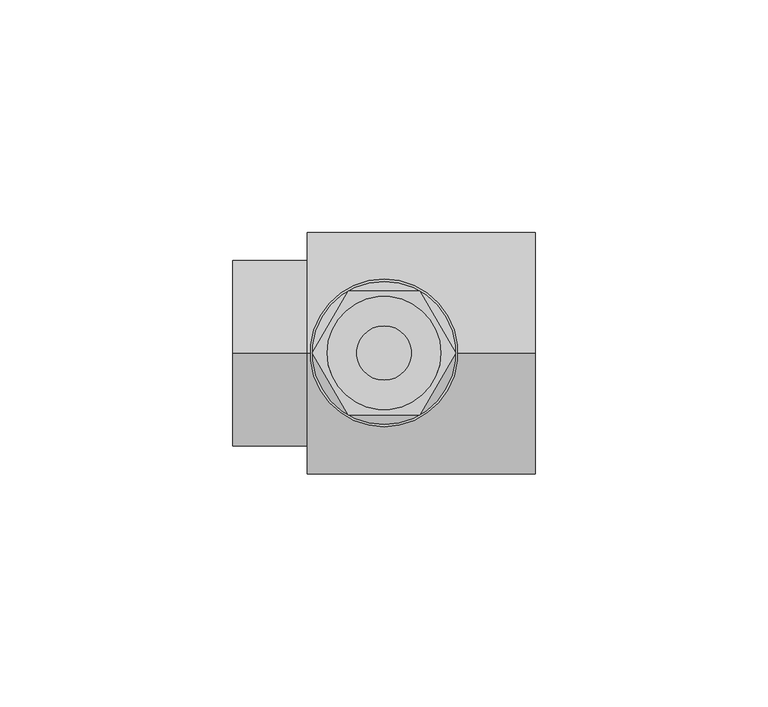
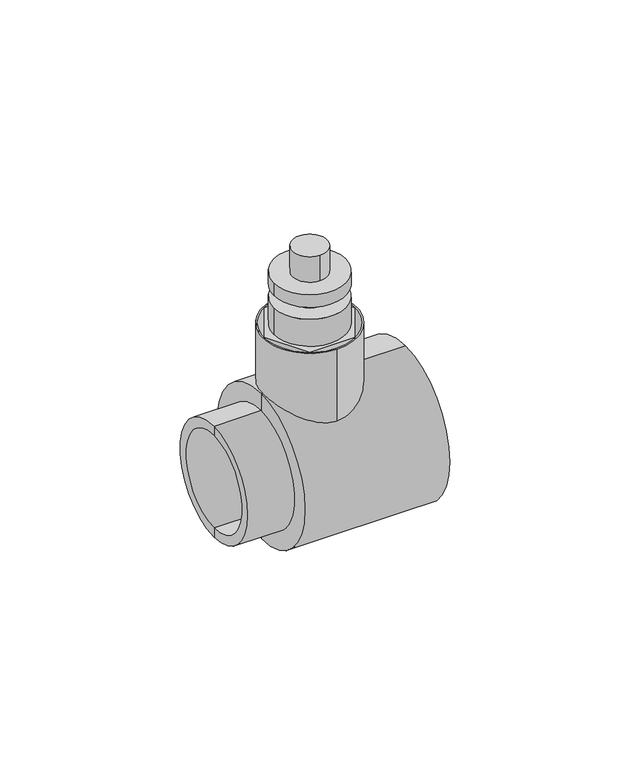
"""IFC4 building model written with IfcOpenShell, lengths in millimetres: valve geometry, Aquatherm - Draining Branch : DRAINING BRANCH."""

from ifc_helpers import new_model, si_unit, point, frame, origin, origin_2d, place, context, project, spatial, polyline, circle_curve, trimmed, segment, composite_curve, outline, extrude, source, transform, mapped, element, save
from ifc_brep_helpers import plane_surface, cylinder_surface, revolved_surface, advanced_brep


def valve_f6efbf89(model_context):
    return source(origin(), model_context, "Body", "SolidModel", [
        extrude(outline(composite_curve([segment(trimmed(circle_curve(origin_2d(), 5.842), [point((0.0, 5.842))], [point((0.0, -5.842))], False, "CARTESIAN"), True, "CONTINUOUS"), segment(trimmed(circle_curve(origin_2d(), 5.842), [point((0.0, -5.842))], [point((0.0, 5.842))], False, "CARTESIAN"), True, "CONTINUOUS")], self_intersect=False)), frame((0.0, 0.0, 64.262), z_axis=(0.0, 0.0, 1.0), x_axis=(1.0, 0.0, 0.0)), (0.0, 0.0, 1.0), 9.144),
        extrude(outline(composite_curve([segment(trimmed(circle_curve(origin_2d(), 12.192), [point((12.192, 0.0))], [point((-12.192, 0.0))], False, "CARTESIAN"), True, "CONTINUOUS"), segment(trimmed(circle_curve(origin_2d(), 12.192), [point((-12.192, 0.0))], [point((12.192, 0.0))], False, "CARTESIAN"), True, "CONTINUOUS")], self_intersect=False)), frame((0.0, 0.0, 59.69), z_axis=(0.0, 0.0, 1.0), x_axis=(1.0, 0.0, 0.0)), (0.0, 0.0, 1.0), 4.572),
        extrude(outline(composite_curve([segment(trimmed(circle_curve(origin_2d(), 6.35), [point((6.35, 0.0))], [point((-6.35, 0.0))], False, "CARTESIAN"), True, "CONTINUOUS"), segment(trimmed(circle_curve(origin_2d(), 6.35), [point((-6.35, 0.0))], [point((6.35, 0.0))], False, "CARTESIAN"), True, "CONTINUOUS")], self_intersect=False)), frame((0.0, 0.0, 55.372), z_axis=(0.0, 0.0, 1.0), x_axis=(1.0, 0.0, 0.0)), (0.0, 0.0, 1.0), 4.318),
        extrude(outline(composite_curve([segment(trimmed(circle_curve(origin_2d(), 12.192), [point((12.192, 0.0))], [point((-12.192, 0.0))], False, "CARTESIAN"), True, "CONTINUOUS"), segment(trimmed(circle_curve(origin_2d(), 12.192), [point((-12.192, 0.0))], [point((12.192, 0.0))], False, "CARTESIAN"), True, "CONTINUOUS")], self_intersect=False)), frame((0.0, 0.0, 45.72), z_axis=(0.0, 0.0, 1.0), x_axis=(1.0, 0.0, 0.0)), (0.0, 0.0, 1.0), 9.652),
        extrude(outline(polyline([(15.367, 0.0), (7.6835, -13.3082124), (-7.6835, -13.3082124), (-15.367, 0.0), (-7.6835, 13.3082124), (7.6835, 13.3082124), (15.367, 0.0)])), frame((0.0, 0.0, 42.418), z_axis=(0.0, 0.0, 1.0), x_axis=(1.0, 0.0, 0.0)), (0.0, 0.0, 1.0), 3.302),
        extrude(outline(composite_curve([segment(trimmed(circle_curve(origin_2d(), 15.875), [point((0.0, 15.875))], [point((0.0, -15.875))], False, "CARTESIAN"), True, "CONTINUOUS"), segment(trimmed(circle_curve(origin_2d(), 15.875), [point((0.0, -15.875))], [point((0.0, 15.875))], False, "CARTESIAN"), True, "CONTINUOUS")], self_intersect=False), holes=[composite_curve([segment(trimmed(circle_curve(origin_2d(), 15.367), [point((0.0, 15.367))], [point((0.0, -15.367))], True, "CARTESIAN"), True, "CONTINUOUS"), segment(trimmed(circle_curve(origin_2d(), 15.367), [point((0.0, -15.367))], [point((0.0, 15.367))], True, "CARTESIAN"), True, "CONTINUOUS")], self_intersect=False)]), frame((0.0, 0.0, 16.637), z_axis=(0.0, 0.0, 1.0), x_axis=(1.0, 0.0, 0.0)), (0.0, 0.0, 1.0), 29.083),
        advanced_brep(
        [(-16.51, 0.0, -26.035), (-16.51, 0.0, 26.035), (32.512, 0.0, 26.035), (32.512, 0.0, -26.035), (-16.51, 0.0, -19.939), (-16.51, 0.0, 19.939), (-32.512, 0.0, -19.939), (-32.512, 0.0, 19.939), (-32.512, 0.0, -16.637), (-32.512, 0.0, 16.637), (11.938, 0.0, -16.637), (11.938, 0.0, 16.637), (11.938, 0.0, -19.939), (11.938, 0.0, 19.939), (32.512, 0.0, -19.939), (32.512, 0.0, 19.939)],
        [
            (0, 1, circle_curve(frame((-16.51, 0.0, 0.0), z_axis=(1.0, 0.0, 0.0), x_axis=(0.0, 0.0, 1.0)), 26.035)),
            (1, 2),
            (2, 3, circle_curve(frame((32.512, 0.0, 0.0), z_axis=(-1.0, 0.0, 0.0), x_axis=(0.0, 0.0, 1.0)), 26.035)),
            (3, 0),
            (1, 0, circle_curve(frame((-16.51, 0.0, 0.0), z_axis=(1.0, 0.0, 0.0), x_axis=(0.0, 0.0, 1.0)), 26.035)),
            (3, 2, circle_curve(frame((32.512, 0.0, 0.0), z_axis=(-1.0, 0.0, 0.0), x_axis=(0.0, 0.0, 1.0)), 26.035)),
            (4, 5, circle_curve(frame((-16.51, 0.0, 0.0), z_axis=(1.0, 0.0, 0.0), x_axis=(0.0, 0.0, 1.0)), 19.939)),
            (5, 1),
            (0, 4),
            (5, 4, circle_curve(frame((-16.51, 0.0, 0.0), z_axis=(1.0, 0.0, 0.0), x_axis=(0.0, 0.0, 1.0)), 19.939)),
            (6, 7, circle_curve(frame((-32.512, 0.0, 0.0), z_axis=(1.0, 0.0, 0.0), x_axis=(0.0, 0.0, 1.0)), 19.939)),
            (7, 5),
            (4, 6),
            (7, 6, circle_curve(frame((-32.512, 0.0, 0.0), z_axis=(1.0, 0.0, 0.0), x_axis=(0.0, 0.0, 1.0)), 19.939)),
            (8, 9, circle_curve(frame((-32.512, 0.0, 0.0), z_axis=(1.0, 0.0, 0.0), x_axis=(0.0, 0.0, 1.0)), 16.637)),
            (9, 7),
            (6, 8),
            (9, 8, circle_curve(frame((-32.512, 0.0, 0.0), z_axis=(1.0, 0.0, 0.0), x_axis=(0.0, 0.0, 1.0)), 16.637)),
            (10, 11, circle_curve(frame((11.938, 0.0, 0.0), z_axis=(1.0, 0.0, 0.0), x_axis=(0.0, 0.0, 1.0)), 16.637)),
            (11, 9),
            (8, 10),
            (11, 10, circle_curve(frame((11.938, 0.0, 0.0), z_axis=(1.0, 0.0, 0.0), x_axis=(0.0, 0.0, 1.0)), 16.637)),
            (12, 13, circle_curve(frame((11.938, 0.0, 0.0), z_axis=(1.0, 0.0, 0.0), x_axis=(0.0, 0.0, 1.0)), 19.939)),
            (13, 11),
            (10, 12),
            (13, 12, circle_curve(frame((11.938, 0.0, 0.0), z_axis=(1.0, 0.0, 0.0), x_axis=(0.0, 0.0, 1.0)), 19.939)),
            (14, 15, circle_curve(frame((32.512, 0.0, 0.0), z_axis=(1.0, 0.0, 0.0), x_axis=(0.0, 0.0, 1.0)), 19.939)),
            (15, 13),
            (12, 14),
            (15, 14, circle_curve(frame((32.512, 0.0, 0.0), z_axis=(1.0, 0.0, 0.0), x_axis=(0.0, 0.0, 1.0)), 19.939)),
            (2, 15),
            (14, 3),
        ],
        [
            cylinder_surface(frame((-38.862, 0.0, 0.0), z_axis=(-1.0, 0.0, 0.0), x_axis=(0.0, 0.0, 1.0)), 26.035),
            plane_surface(frame((-16.51, 0.0, 0.0), z_axis=(-1.0, 0.0, 0.0), x_axis=(0.0, 0.0, 1.0))),
            cylinder_surface(frame((-38.862, 0.0, 0.0), z_axis=(-1.0, 0.0, 0.0), x_axis=(0.0, 0.0, 1.0)), 19.939),
            plane_surface(frame((-32.512, 0.0, 0.0), z_axis=(-1.0, 0.0, 0.0), x_axis=(0.0, 0.0, 1.0))),
            revolved_surface(polyline([(-32.512, 0.0, 16.637), (11.938000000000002, 0.0, 16.637)]), (-38.862, 0.0, 0.0), (-1.0, 0.0, 0.0)),
            plane_surface(frame((11.938, 0.0, 0.0), z_axis=(1.0, 0.0, 0.0), x_axis=(0.0, 0.0, 1.0))),
            revolved_surface(polyline([(11.938000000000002, 0.0, 19.939), (32.51199999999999, 0.0, 19.939)]), (-38.862, 0.0, 0.0), (-1.0, 0.0, 0.0)),
            plane_surface(frame((32.512, 0.0, 0.0), z_axis=(1.0, 0.0, 0.0), x_axis=(0.0, 0.0, 1.0))),
        ],
        [
            (0, [[1, 2, 3, 4]]),
            (0, [[5, -4, 6, -2]]),
            (1, [[7, 8, -1, 9]]),
            (1, [[10, -9, -5, -8]]),
            (2, [[11, 12, -7, 13]]),
            (2, [[14, -13, -10, -12]]),
            (3, [[15, 16, -11, 17]]),
            (3, [[18, -17, -14, -16]]),
            (4, [[19, 20, -15, 21]]),
            (4, [[22, -21, -18, -20]]),
            (5, [[23, 24, -19, 25]]),
            (5, [[26, -25, -22, -24]]),
            (6, [[27, 28, -23, 29]]),
            (6, [[30, -29, -26, -28]]),
            (7, [[-3, 31, -27, 32]]),
            (7, [[-6, -32, -30, -31]]),
        ],
    ),
    ])


if __name__ == "__main__":
    model = new_model("IFC4")
    model_context = context("Model", 3, world=origin())
    ifc_project = project(units=[si_unit("LENGTHUNIT", "METRE", prefix="MILLI")], contexts=[model_context])
    site = spatial("IfcSite", under=ifc_project)
    building = spatial("IfcBuilding", under=site)
    placement = place(None, origin())
    valve_shape = valve_f6efbf89(model_context)
    element("IfcValve", 1, ObjectType="Aquatherm - Draining Branch : DRAINING BRANCH", at=placement, inside=building, context=model_context, shape_type="MappedRepresentation", body=[
        mapped(valve_shape, transform((0.0, 0.0, 0.0), x_axis=(1.0, 0.0, 0.0), y_axis=(0.0, 1.0, 0.0), z_axis=(0.0, 0.0, 1.0))),
    ])
    save(model, "model.ifc")
